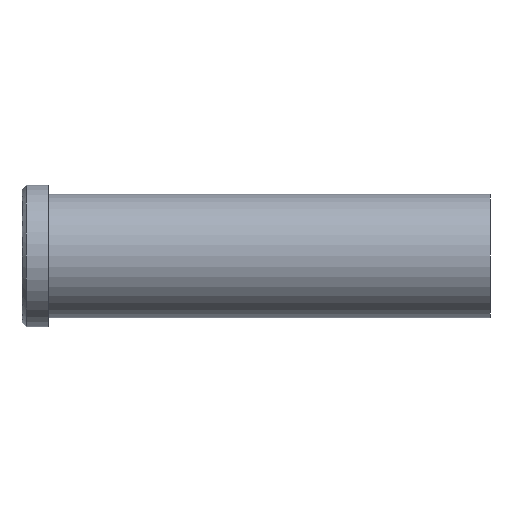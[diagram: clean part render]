
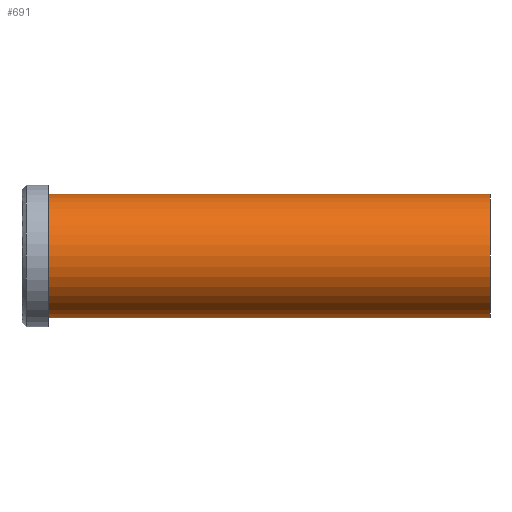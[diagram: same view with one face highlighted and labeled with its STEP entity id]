
A CAD part, front view. The second image highlights one B-rep face of the part: STEP entity #691.
In plain terms, the highlighted cylindrical face has radius 14 mm (diameter 28 mm), a partial arc.
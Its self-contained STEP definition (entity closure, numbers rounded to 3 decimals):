
#501=CARTESIAN_POINT('Vertex',(0.,0.,-14.)) ;
#506=CARTESIAN_POINT('Axis2P3D Location',(0.,0.,0.)) ;
#510=CARTESIAN_POINT('Vertex',(0.,-14.,0.)) ;
#513=CARTESIAN_POINT('Axis2P3D Location',(0.,0.,0.)) ;
#517=CARTESIAN_POINT('Vertex',(0.,0.,14.)) ;
#631=CARTESIAN_POINT('Line Origine',(100.,0.,14.)) ;
#635=CARTESIAN_POINT('Vertex',(100.,0.,14.)) ;
#649=CARTESIAN_POINT('Vertex',(100.,0.,-14.)) ;
#652=CARTESIAN_POINT('Line Origine',(100.,0.,-14.)) ;
#666=CARTESIAN_POINT('Axis2P3D Location',(100.,0.,0.)) ;
#671=CARTESIAN_POINT('Axis2P3D Location',(100.,0.,0.)) ;
#675=CARTESIAN_POINT('Vertex',(100.,-14.,0.)) ;
#678=CARTESIAN_POINT('Axis2P3D Location',(100.,0.,0.)) ;
#507=DIRECTION('Axis2P3D Direction',(1.,0.,-0.)) ;
#514=DIRECTION('Axis2P3D Direction',(1.,0.,-0.)) ;
#632=DIRECTION('Vector Direction',(-1.,0.,0.)) ;
#653=DIRECTION('Vector Direction',(-1.,0.,0.)) ;
#667=DIRECTION('Axis2P3D Direction',(-1.,-0.,-0.)) ;
#668=DIRECTION('Axis2P3D XDirection',(0.,0.,-1.)) ;
#672=DIRECTION('Axis2P3D Direction',(-1.,-0.,-0.)) ;
#679=DIRECTION('Axis2P3D Direction',(-1.,-0.,-0.)) ;
#508=AXIS2_PLACEMENT_3D('Circle Axis2P3D',#506,#507,$) ;
#515=AXIS2_PLACEMENT_3D('Circle Axis2P3D',#513,#514,$) ;
#669=AXIS2_PLACEMENT_3D('Cylinder Axis2P3D',#666,#667,#668) ;
#673=AXIS2_PLACEMENT_3D('Circle Axis2P3D',#671,#672,$) ;
#680=AXIS2_PLACEMENT_3D('Circle Axis2P3D',#678,#679,$) ;
#684=ORIENTED_EDGE('',*,*,#656,.T.) ;
#685=ORIENTED_EDGE('',*,*,#677,.F.) ;
#686=ORIENTED_EDGE('',*,*,#682,.F.) ;
#687=ORIENTED_EDGE('',*,*,#637,.T.) ;
#688=ORIENTED_EDGE('',*,*,#519,.T.) ;
#689=ORIENTED_EDGE('',*,*,#512,.T.) ;
#633=VECTOR('Line Direction',#632,1.) ;
#654=VECTOR('Line Direction',#653,1.) ;
#691=ADVANCED_FACE('353-20X106',(#690),#670,.T.) ;
#509=CIRCLE('generated circle',#508,14.) ;
#516=CIRCLE('generated circle',#515,14.) ;
#674=CIRCLE('generated circle',#673,14.) ;
#681=CIRCLE('generated circle',#680,14.) ;
#670=CYLINDRICAL_SURFACE('generated cylinder',#669,14.) ;
#512=EDGE_CURVE('',#511,#502,#509,.T.) ;
#519=EDGE_CURVE('',#518,#511,#516,.T.) ;
#637=EDGE_CURVE('',#636,#518,#634,.T.) ;
#656=EDGE_CURVE('',#502,#650,#655,.F.) ;
#677=EDGE_CURVE('',#676,#650,#674,.F.) ;
#682=EDGE_CURVE('',#636,#676,#681,.F.) ;
#683=EDGE_LOOP('',(#684,#685,#686,#687,#688,#689)) ;
#690=FACE_OUTER_BOUND('',#683,.T.) ;
#634=LINE('Line',#631,#633) ;
#655=LINE('Line',#652,#654) ;
#502=VERTEX_POINT('',#501) ;
#511=VERTEX_POINT('',#510) ;
#518=VERTEX_POINT('',#517) ;
#636=VERTEX_POINT('',#635) ;
#650=VERTEX_POINT('',#649) ;
#676=VERTEX_POINT('',#675) ;
